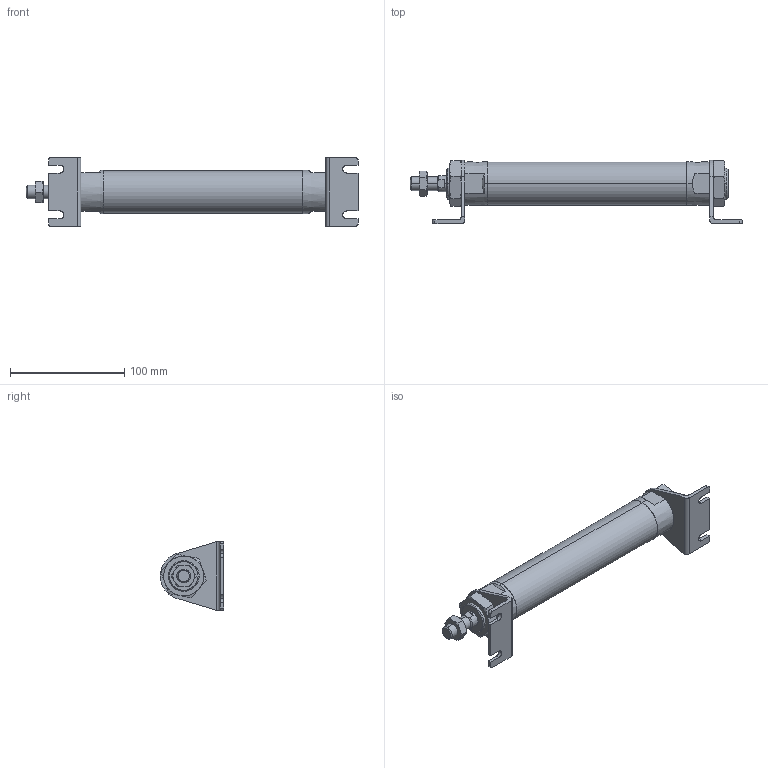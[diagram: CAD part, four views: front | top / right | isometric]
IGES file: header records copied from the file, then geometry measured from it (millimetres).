
Start section: SolidWorks IGES file using analytic representation for surfaces
Global section: file name: C:\Users\Toshiba\Desktop\J#2-32-125-L.IGS; native system: SolidWorks 2014; preprocessor: SolidWorks 2014; author: Toshiba; date: 160310.090016; units: millimetre
Bounding box: 290.2 x 55.5 x 60 mm (x, y, z)
Surface area: 55054.3 mm2 (no closed solid volume)
Topology: 0 solids, 0 shells, 170 faces, 2728 edges, 2724 vertices
Faces by surface type: bspline 107, revolution 63
